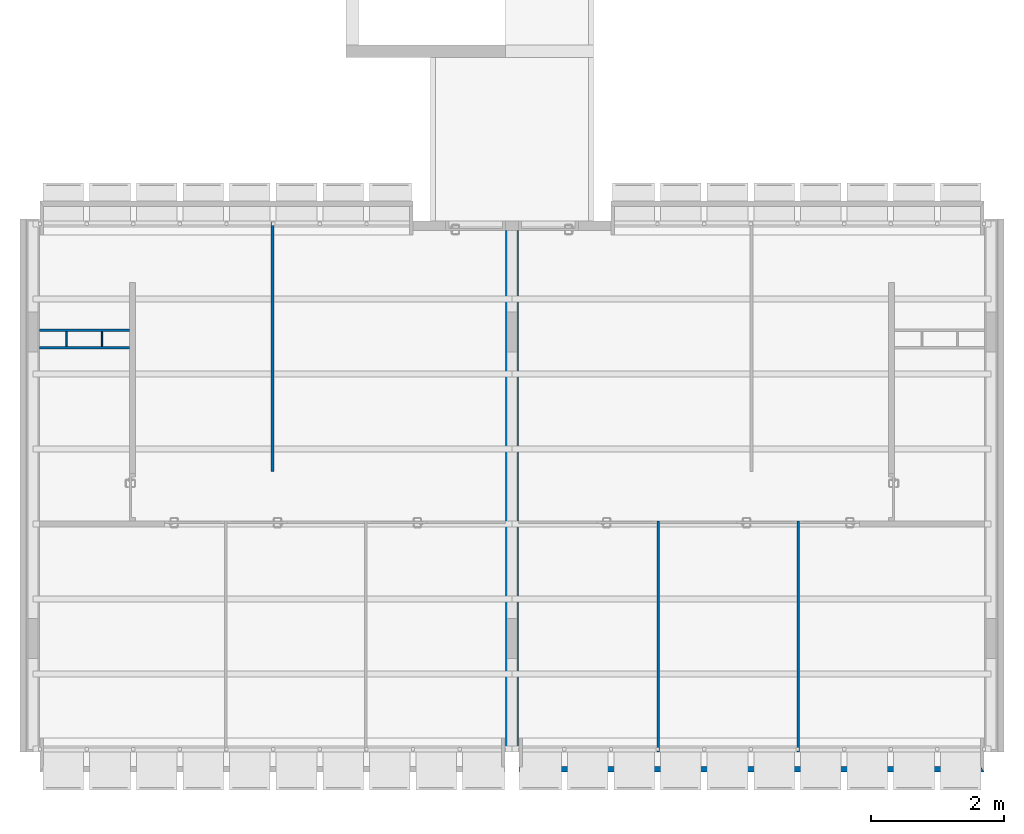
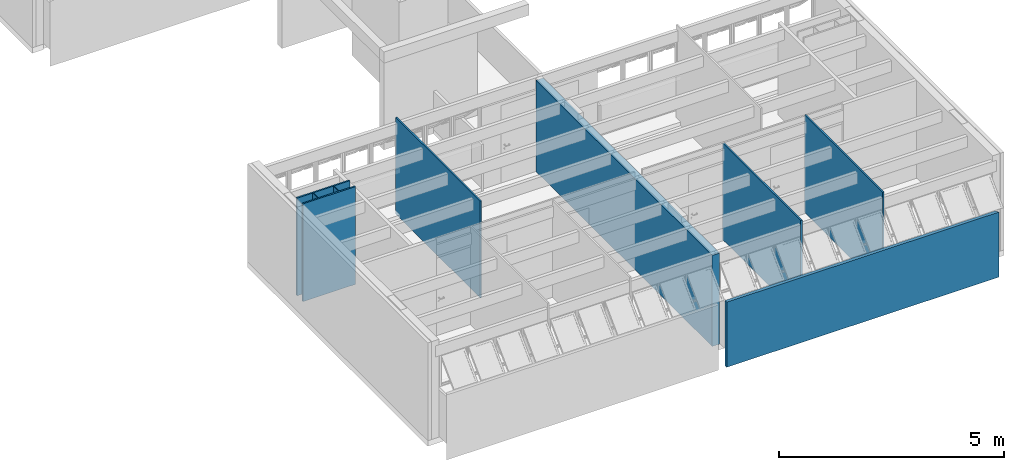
# One storey, part 22 of 40: 9 walls.
"""IFC4 building model written with IfcOpenShell, lengths in millimetres."""

from ifc_helpers import new_model, entity, si_unit, converted_unit, derived_unit, direction, frame, origin_with_axes, place, context, subcontext, project, spatial, line, indexed_curve, outline, extrude, material, layer, layer_set, layer_usage, type_object, element, save


model = new_model("IFC4")

# Units and contexts
model_context = context("Model", 3, precision=0.01, world=origin_with_axes(), true_north=direction((0.0, 1.0)))
body_context = subcontext(model_context, "Body", "Model", "MODEL_VIEW")
ifc_project = project(units=[si_unit("LENGTHUNIT", "METRE", prefix="MILLI"), si_unit("AREAUNIT", "SQUARE_METRE"), si_unit("VOLUMEUNIT", "CUBIC_METRE"), converted_unit("PLANEANGLEUNIT", "DEGREE", entity("IfcPlaneAngleMeasure", 0.0174532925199), si_unit("PLANEANGLEUNIT", "RADIAN"), dimensions=[0, 0, 0, 0, 0, 0, 0]), converted_unit("TIMEUNIT", "Year", entity("IfcTimeMeasure", 31556926.0), si_unit("TIMEUNIT", "SECOND"), dimensions=[0, 0, 1, 0, 0, 0, 0]), si_unit("MASSUNIT", "GRAM", prefix="KILO"), si_unit("THERMODYNAMICTEMPERATUREUNIT", "DEGREE_CELSIUS"), si_unit("LUMINOUSINTENSITYUNIT", "LUMEN"), si_unit("ENERGYUNIT", "JOULE", prefix="MEGA"), derived_unit("THERMALCONDUCTANCEUNIT", [(si_unit("POWERUNIT", "WATT"), 1), (si_unit("LENGTHUNIT", "METRE"), -1), (si_unit("THERMODYNAMICTEMPERATUREUNIT", "KELVIN"), -1)]), derived_unit("SPECIFICHEATCAPACITYUNIT", [(si_unit("ENERGYUNIT", "JOULE"), 1), (si_unit("MASSUNIT", "GRAM", prefix="KILO"), -1), (si_unit("THERMODYNAMICTEMPERATUREUNIT", "KELVIN"), -1)]), derived_unit("MASSDENSITYUNIT", [(si_unit("MASSUNIT", "GRAM", prefix="KILO"), 1), (si_unit("VOLUMEUNIT", "CUBIC_METRE"), -1)])], contexts=[model_context])

# Site, building, storey
site_placement = place(None, origin_with_axes())
site = spatial("IfcSite", under=ifc_project, at=site_placement, Name="Local", CompositionType="ELEMENT")
building_placement = place(site_placement, origin_with_axes())
building = spatial("IfcBuilding", under=site, at=building_placement, Name="Construção", CompositionType="ELEMENT")
storey_placement = place(building_placement, frame((0.0, 0.0, 5300.0), z_axis=(0.0, 0.0, 1.0), x_axis=(1.0, 0.0, 0.0)))
storey = spatial("IfcBuildingStorey", under=building, at=storey_placement, Name="Terceiro Pavimento", CompositionType="ELEMENT", Elevation=5300.0)

# Walls
ifc_material_1 = material(Name="GENÉRICO - VEDAÇÃO EXTERNA")
ifc_layer_1 = layer(ifc_material_1, 190.0, ventilated="UNKNOWN", Name="GENÉRICO - VEDAÇÃO EXTERNA")
ifc_layer_set_1 = layer_set([ifc_layer_1], Name="GENÉRICO - VEDAÇÃO EXTERNA 190")
ifc_layer_usage_1 = layer_usage(ifc_layer_set_1, "AXIS2", "NEGATIVE", 0.0)
wall_type_1 = type_object("IfcWallType", Name="GENÉRICO - VEDAÇÃO EXTERNA 190", PredefinedType="NOTDEFINED")
wall_1_placement = place(storey_placement, frame((7480.0, 8125.0, 0.0), z_axis=(0.0, 0.0, 1.0), x_axis=(0.0, -1.0, 0.0)))
element("IfcWall", 1, at=wall_1_placement, inside=storey, type_object=wall_type_1, material=ifc_layer_usage_1, Name="CIRC3-PAREDE-026", PredefinedType="NOTDEFINED", context=body_context, shape_type="SweptSolid", body=[
    extrude(outline(indexed_curve([(0.0, -190.0), (7825.0, -190.0), (7825.0, 0.0), (0.0, 0.0)], segments=[line(1, 2, 3, 4, 1)])), origin_with_axes(), (0.0, 0.0, 1.0), 2470.0),
])
ifc_layer_2 = layer(ifc_material_1, 40.0, ventilated="UNKNOWN", Name="GENÉRICO - VEDAÇÃO EXTERNA")
ifc_layer_set_2 = layer_set([ifc_layer_2], Name="GENÉRICO - VEDAÇÃO EXTERNA 40")
ifc_layer_usage_2 = layer_usage(ifc_layer_set_2, "AXIS2", "NEGATIVE", 40.0)
wall_type_2 = type_object("IfcWallType", Name="GENÉRICO - VEDAÇÃO EXTERNA 40", PredefinedType="NOTDEFINED")
wall_2_placement = place(storey_placement, frame((3810.0, 4505.0, 0.0), z_axis=(0.0, 0.0, 1.0), x_axis=(0.0, 1.0, 0.0)))
element("IfcWall", 2, at=wall_2_placement, inside=storey, type_object=wall_type_2, material=ifc_layer_usage_2, Name="APTO9-PAREDE-003", PredefinedType="NOTDEFINED", context=body_context, shape_type="SweptSolid", body=[
    extrude(outline(indexed_curve([(0.0, 0.0), (3750.0, 0.0), (3750.0, 40.0), (0.0, 40.0)], segments=[line(1, 2, 3, 4, 1)])), origin_with_axes(), (0.0, 0.0, 1.0), 2620.0),
])
ifc_layer_usage_3 = layer_usage(ifc_layer_set_2, "AXIS2", "NEGATIVE", 40.0)
wall_3_placement = place(storey_placement, frame((290.0, 6345.0, 0.0), z_axis=(0.0, 0.0, 1.0), x_axis=(1.0, 0.0, 0.0)))
element("IfcWall", 3, at=wall_3_placement, inside=storey, type_object=wall_type_2, material=ifc_layer_usage_3, Name="APTO9-PAREDE-011", PredefinedType="NOTDEFINED", context=body_context, shape_type="SweptSolid", body=[
    extrude(outline(indexed_curve([(0.0, 0.0), (1350.0, 0.0), (1350.0, 40.0), (0.0, 40.0)], segments=[line(1, 2, 3, 4, 1)])), origin_with_axes(), (0.0, 0.0, 1.0), 2650.0),
])
ifc_layer_usage_4 = layer_usage(ifc_layer_set_2, "AXIS2", "NEGATIVE", 40.0)
wall_4_placement = place(storey_placement, frame((1730.0, 6645.0, 0.0), z_axis=(0.0, 0.0, 1.0), x_axis=(-1.0, 0.0, 0.0)))
element("IfcWall", 4, at=wall_4_placement, inside=storey, type_object=wall_type_2, material=ifc_layer_usage_4, Name="APTO9-PAREDE-010", PredefinedType="NOTDEFINED", context=body_context, shape_type="SweptSolid", body=[
    extrude(outline(indexed_curve([(90.0, 0.0), (1440.0, 0.0), (1440.0, 40.0), (90.0, 40.0)], segments=[line(1, 2, 3, 4, 1)])), origin_with_axes(), (0.0, 0.0, 1.0), 2650.0),
])
ifc_layer_usage_5 = layer_usage(ifc_layer_set_2, "AXIS2", "POSITIVE", 0.0)
wall_5_placement = place(storey_placement, frame((9560.0, 3765.0, 0.0), z_axis=(0.0, 0.0, 1.0), x_axis=(0.0, -1.0, 0.0)))
element("IfcWall", 5, at=wall_5_placement, inside=storey, type_object=wall_type_2, material=ifc_layer_usage_5, Name="APTO10-PAREDE-005", PredefinedType="NOTDEFINED", context=body_context, shape_type="SweptSolid", body=[
    extrude(outline(indexed_curve([(0.0, 0.0), (3465.0, 0.0), (3465.0, 40.0), (0.0, 40.0)], segments=[line(1, 2, 3, 4, 1)])), origin_with_axes(), (0.0, 0.0, 1.0), 2620.0),
])
ifc_layer_usage_6 = layer_usage(ifc_layer_set_2, "AXIS2", "POSITIVE", 0.0)
wall_6_placement = place(storey_placement, frame((11660.0, 3765.0, 0.0), z_axis=(0.0, 0.0, 1.0), x_axis=(0.0, -1.0, 0.0)))
element("IfcWall", 6, at=wall_6_placement, inside=storey, type_object=wall_type_2, material=ifc_layer_usage_6, Name="APTO10-PAREDE-007", PredefinedType="NOTDEFINED", context=body_context, shape_type="SweptSolid", body=[
    extrude(outline(indexed_curve([(0.0, 0.0), (3465.0, 0.0), (3465.0, 40.0), (0.0, 40.0)], segments=[line(1, 2, 3, 4, 1)])), origin_with_axes(), (0.0, 0.0, 1.0), 2650.0),
])
ifc_layer_3 = layer(ifc_material_1, 20.0, ventilated="UNKNOWN", Name="GENÉRICO - VEDAÇÃO EXTERNA")
ifc_layer_set_3 = layer_set([ifc_layer_3], Name="GENÉRICO - VEDAÇÃO EXTERNA 20")
ifc_layer_usage_7 = layer_usage(ifc_layer_set_3, "AXIS2", "NEGATIVE", 20.0)
wall_type_3 = type_object("IfcWallType", Name="GENÉRICO - VEDAÇÃO EXTERNA 20", PredefinedType="NOTDEFINED")
wall_7_placement = place(storey_placement, frame((710.0, 6345.0, 0.0), z_axis=(0.0, 0.0, 1.0), x_axis=(0.0, 1.0, 0.0)))
element("IfcWall", 7, at=wall_7_placement, inside=storey, type_object=wall_type_3, material=ifc_layer_usage_7, Name="APTO9-PAREDE-009", PredefinedType="NOTDEFINED", context=body_context, shape_type="SweptSolid", body=[
    extrude(outline(indexed_curve([(40.0, 0.0), (260.0, 0.0), (260.0, 20.0), (40.0, 20.0)], segments=[line(1, 2, 3, 4, 1)])), origin_with_axes(), (0.0, 0.0, 1.0), 2650.0),
])
ifc_layer_usage_8 = layer_usage(ifc_layer_set_3, "AXIS2", "NEGATIVE", 0.0)
wall_8_placement = place(storey_placement, frame((1240.0, 6645.0, 0.0), z_axis=(0.0, 0.0, 1.0), x_axis=(0.0, -1.0, 0.0)))
element("IfcWall", 8, at=wall_8_placement, inside=storey, type_object=wall_type_3, material=ifc_layer_usage_8, Name="APTO9-PAREDE-008", PredefinedType="NOTDEFINED", context=body_context, shape_type="SweptSolid", body=[
    extrude(outline(indexed_curve([(40.0, -20.0), (260.0, -20.0), (260.0, 0.0), (40.0, 0.0)], segments=[line(1, 2, 3, 4, 1)])), origin_with_axes(), (0.0, 0.0, 1.0), 2650.0),
])
ifc_material_2 = material(Name="Concreto Armado Moldado in Loco - Estrutural")
ifc_layer_4 = layer(ifc_material_2, 80.0, ventilated="UNKNOWN", Name="Concreto Armado Moldado in Loco - Estrutural")
ifc_layer_set_4 = layer_set([ifc_layer_4], Name="Concreto Armado Moldado in Loco - Estrutural 80")
ifc_layer_usage_9 = layer_usage(ifc_layer_set_4, "AXIS2", "NEGATIVE", 80.0)
wall_type_4 = type_object("IfcWallType", Name="Concreto Armado Moldado in Loco - Estrutural 80", PredefinedType="NOTDEFINED")
wall_9_placement = place(storey_placement, frame((14470.0, 80.0, -450.0), z_axis=(0.0, 0.0, 1.0), x_axis=(-1.0, 0.0, 0.0)))
element("IfcWall", 9, at=wall_9_placement, inside=storey, type_object=wall_type_4, material=ifc_layer_usage_9, Name="APTO10-PAREDE-015", PredefinedType="NOTDEFINED", context=body_context, shape_type="SweptSolid", body=[
    extrude(outline(indexed_curve([(50.0, 0.0), (6980.0, 0.0), (6980.0, 80.0), (0.0, 80.0)], segments=[line(1, 2, 3, 4, 1)])), origin_with_axes(), (0.0, 0.0, 1.0), 1765.0),
])

save(model, "model.ifc")
